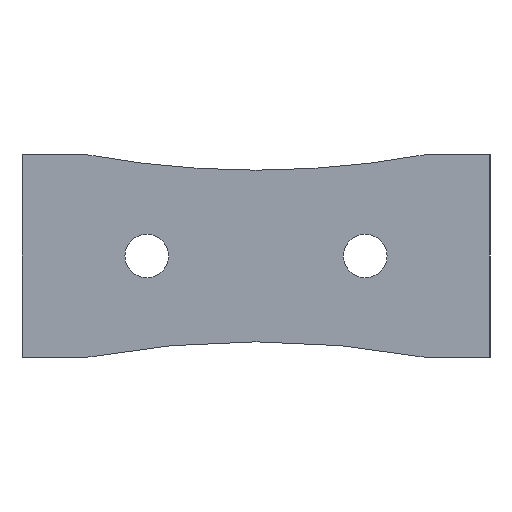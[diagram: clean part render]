
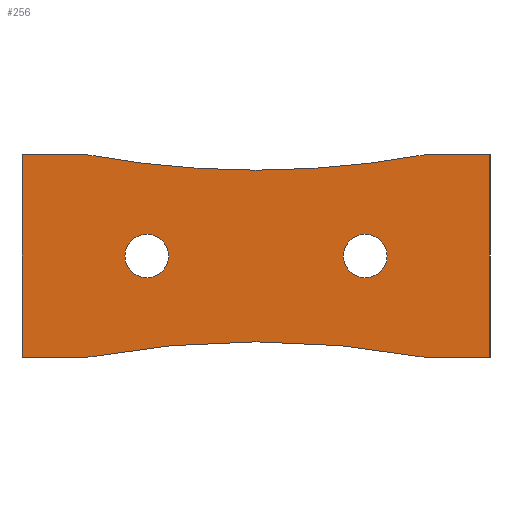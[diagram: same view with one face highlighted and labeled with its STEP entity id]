
A CAD part, left-side view. The second image highlights one B-rep face of the part: STEP entity #256.
In plain terms, the highlighted planar face has unit normal (-1, 0, 0).
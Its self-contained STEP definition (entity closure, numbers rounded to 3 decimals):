
#58 = EDGE_CURVE ( 'NONE', #65, #59, #457, .T. ) ;
#59 = VERTEX_POINT ( 'NONE', #452 ) ;
#65 = VERTEX_POINT ( 'NONE', #533 ) ;
#85 = EDGE_CURVE ( 'NONE', #86, #87, #566, .T. ) ;
#86 = VERTEX_POINT ( 'NONE', #557 ) ;
#87 = VERTEX_POINT ( 'NONE', #556 ) ;
#109 = EDGE_CURVE ( 'NONE', #129, #110, #583, .T. ) ;
#110 = VERTEX_POINT ( 'NONE', #578 ) ;
#129 = VERTEX_POINT ( 'NONE', #612 ) ;
#216 = VERTEX_POINT ( 'NONE', #930 ) ;
#236 = ORIENTED_EDGE ( 'NONE', *, *, #109, .T. ) ;
#237 = EDGE_LOOP ( 'NONE', ( #238, #240 ) ) ;
#238 = ORIENTED_EDGE ( 'NONE', *, *, #239, .T. ) ;
#239 = EDGE_CURVE ( 'NONE', #87, #86, #828, .T. ) ;
#240 = ORIENTED_EDGE ( 'NONE', *, *, #85, .T. ) ;
#241 = EDGE_LOOP ( 'NONE', ( #242, #243, #245, #246, #282, #283, #272, #274, #275 ) ) ;
#242 = ORIENTED_EDGE ( 'NONE', *, *, #276, .F. ) ;
#243 = ORIENTED_EDGE ( 'NONE', *, *, #244, .T. ) ;
#244 = EDGE_CURVE ( 'NONE', #216, #65, #917, .T. ) ;
#245 = ORIENTED_EDGE ( 'NONE', *, *, #58, .T. ) ;
#246 = ORIENTED_EDGE ( 'NONE', *, *, #340, .F. ) ;
#252 = EDGE_CURVE ( 'NONE', #297, #341, #903, .T. ) ;
#256 = ADVANCED_FACE ( 'NONE', ( #899, #898, #897 ), #896, .F. ) ;
#257 = EDGE_LOOP ( 'NONE', ( #258, #236 ) ) ;
#258 = ORIENTED_EDGE ( 'NONE', *, *, #259, .T. ) ;
#259 = EDGE_CURVE ( 'NONE', #110, #129, #891, .T. ) ;
#272 = ORIENTED_EDGE ( 'NONE', *, *, #273, .T. ) ;
#273 = EDGE_CURVE ( 'NONE', #294, #329, #748, .T. ) ;
#274 = ORIENTED_EDGE ( 'NONE', *, *, #327, .F. ) ;
#275 = ORIENTED_EDGE ( 'NONE', *, *, #285, .F. ) ;
#276 = EDGE_CURVE ( 'NONE', #216, #277, #744, .T. ) ;
#277 = VERTEX_POINT ( 'NONE', #740 ) ;
#282 = ORIENTED_EDGE ( 'NONE', *, *, #252, .F. ) ;
#283 = ORIENTED_EDGE ( 'NONE', *, *, #296, .F. ) ;
#285 = EDGE_CURVE ( 'NONE', #277, #328, #729, .T. ) ;
#294 = VERTEX_POINT ( 'NONE', #814 ) ;
#296 = EDGE_CURVE ( 'NONE', #294, #297, #813, .T. ) ;
#297 = VERTEX_POINT ( 'NONE', #809 ) ;
#327 = EDGE_CURVE ( 'NONE', #328, #329, #760, .T. ) ;
#328 = VERTEX_POINT ( 'NONE', #1057 ) ;
#329 = VERTEX_POINT ( 'NONE', #1056 ) ;
#340 = EDGE_CURVE ( 'NONE', #341, #59, #1012, .T. ) ;
#341 = VERTEX_POINT ( 'NONE', #1008 ) ;
#349 = DIRECTION ( 'NONE',  ( 0., 1., 0. ) ) ;
#452 = CARTESIAN_POINT ( 'NONE',  ( 0., 5.45, 3.25 ) ) ;
#453 = DIRECTION ( 'NONE',  ( 0., 0., -1. ) ) ;
#454 = DIRECTION ( 'NONE',  ( 1., 0., 0. ) ) ;
#455 = CARTESIAN_POINT ( 'NONE',  ( 0., 0., 32.751 ) ) ;
#456 = AXIS2_PLACEMENT_3D ( 'NONE', #455, #454, #453 ) ;
#457 = CIRCLE ( 'NONE', #456, 30. ) ;
#533 = CARTESIAN_POINT ( 'NONE',  ( 0., 0., 2.751 ) ) ;
#556 = CARTESIAN_POINT ( 'NONE',  ( 0., 3.5, -0.7 ) ) ;
#557 = CARTESIAN_POINT ( 'NONE',  ( 0., 3.5, 0.7 ) ) ;
#558 = DIRECTION ( 'NONE',  ( 0., 0., -1. ) ) ;
#559 = DIRECTION ( 'NONE',  ( 1., 0., 0. ) ) ;
#560 = CARTESIAN_POINT ( 'NONE',  ( 0., 3.5, 0. ) ) ;
#561 = AXIS2_PLACEMENT_3D ( 'NONE', #560, #559, #558 ) ;
#566 = CIRCLE ( 'NONE', #561, 0.7 ) ;
#578 = CARTESIAN_POINT ( 'NONE',  ( 0., -3.5, -0.7 ) ) ;
#579 = DIRECTION ( 'NONE',  ( 0., 0., -1. ) ) ;
#580 = DIRECTION ( 'NONE',  ( 1., 0., 0. ) ) ;
#581 = CARTESIAN_POINT ( 'NONE',  ( 0., -3.5, 0. ) ) ;
#582 = AXIS2_PLACEMENT_3D ( 'NONE', #581, #580, #579 ) ;
#583 = CIRCLE ( 'NONE', #582, 0.7 ) ;
#612 = CARTESIAN_POINT ( 'NONE',  ( 0., -3.5, 0.7 ) ) ;
#726 = DIRECTION ( 'NONE',  ( 0., 0., -1. ) ) ;
#727 = VECTOR ( 'NONE', #726, 1000. ) ;
#728 = CARTESIAN_POINT ( 'NONE',  ( 0., -7.5, 3.25 ) ) ;
#729 = LINE ( 'NONE', #728, #727 ) ;
#740 = CARTESIAN_POINT ( 'NONE',  ( 0., -7.5, 3.25 ) ) ;
#741 = DIRECTION ( 'NONE',  ( 0., -1., 0. ) ) ;
#742 = VECTOR ( 'NONE', #741, 1000. ) ;
#743 = CARTESIAN_POINT ( 'NONE',  ( 0., 7.5, 3.25 ) ) ;
#744 = LINE ( 'NONE', #743, #742 ) ;
#745 = DIRECTION ( 'NONE',  ( 0., 0., -1. ) ) ;
#746 = DIRECTION ( 'NONE',  ( 1., 0., 0. ) ) ;
#747 = AXIS2_PLACEMENT_3D ( 'NONE', #752, #746, #745 ) ;
#748 = CIRCLE ( 'NONE', #747, 30. ) ;
#752 = CARTESIAN_POINT ( 'NONE',  ( 0., 0., -32.751 ) ) ;
#758 = VECTOR ( 'NONE', #349, 1000. ) ;
#759 = CARTESIAN_POINT ( 'NONE',  ( 0., 7.5, -3.25 ) ) ;
#760 = LINE ( 'NONE', #759, #758 ) ;
#809 = CARTESIAN_POINT ( 'NONE',  ( 0., 7.5, -3.25 ) ) ;
#810 = DIRECTION ( 'NONE',  ( 0., 1., 0. ) ) ;
#811 = VECTOR ( 'NONE', #810, 1000. ) ;
#812 = CARTESIAN_POINT ( 'NONE',  ( 0., 7.5, -3.25 ) ) ;
#813 = LINE ( 'NONE', #812, #811 ) ;
#814 = CARTESIAN_POINT ( 'NONE',  ( 0., 5.45, -3.25 ) ) ;
#824 = DIRECTION ( 'NONE',  ( 0., 0., -1. ) ) ;
#825 = DIRECTION ( 'NONE',  ( 1., 0., 0. ) ) ;
#826 = CARTESIAN_POINT ( 'NONE',  ( 0., 3.5, 0. ) ) ;
#827 = AXIS2_PLACEMENT_3D ( 'NONE', #826, #825, #824 ) ;
#828 = CIRCLE ( 'NONE', #827, 0.7 ) ;
#887 = DIRECTION ( 'NONE',  ( 0., 0., -1. ) ) ;
#888 = DIRECTION ( 'NONE',  ( 1., 0., 0. ) ) ;
#889 = CARTESIAN_POINT ( 'NONE',  ( 0., -3.5, 0. ) ) ;
#890 = AXIS2_PLACEMENT_3D ( 'NONE', #889, #888, #887 ) ;
#891 = CIRCLE ( 'NONE', #890, 0.7 ) ;
#892 = DIRECTION ( 'NONE',  ( 0., 0., -1. ) ) ;
#893 = DIRECTION ( 'NONE',  ( 1., 0., 0. ) ) ;
#894 = CARTESIAN_POINT ( 'NONE',  ( 0., -7.5, 3.25 ) ) ;
#895 = AXIS2_PLACEMENT_3D ( 'NONE', #894, #893, #892 ) ;
#896 = PLANE ( 'NONE',  #895 ) ;
#897 = FACE_OUTER_BOUND ( 'NONE', #241, .T. ) ;
#898 = FACE_BOUND ( 'NONE', #237, .T. ) ;
#899 = FACE_BOUND ( 'NONE', #257, .T. ) ;
#900 = DIRECTION ( 'NONE',  ( 0., 0., 1. ) ) ;
#901 = VECTOR ( 'NONE', #900, 1000. ) ;
#902 = CARTESIAN_POINT ( 'NONE',  ( 0., 7.5, 3.25 ) ) ;
#903 = LINE ( 'NONE', #902, #901 ) ;
#913 = DIRECTION ( 'NONE',  ( 0., 0., -1. ) ) ;
#914 = DIRECTION ( 'NONE',  ( 1., 0., 0. ) ) ;
#915 = CARTESIAN_POINT ( 'NONE',  ( 0., 0., 32.751 ) ) ;
#916 = AXIS2_PLACEMENT_3D ( 'NONE', #915, #914, #913 ) ;
#917 = CIRCLE ( 'NONE', #916, 30. ) ;
#930 = CARTESIAN_POINT ( 'NONE',  ( 0., -5.45, 3.25 ) ) ;
#1008 = CARTESIAN_POINT ( 'NONE',  ( 0., 7.5, 3.25 ) ) ;
#1009 = DIRECTION ( 'NONE',  ( 0., -1., 0. ) ) ;
#1010 = VECTOR ( 'NONE', #1009, 1000. ) ;
#1011 = CARTESIAN_POINT ( 'NONE',  ( 0., 7.5, 3.25 ) ) ;
#1012 = LINE ( 'NONE', #1011, #1010 ) ;
#1056 = CARTESIAN_POINT ( 'NONE',  ( 0., -5.45, -3.25 ) ) ;
#1057 = CARTESIAN_POINT ( 'NONE',  ( 0., -7.5, -3.25 ) ) ;
